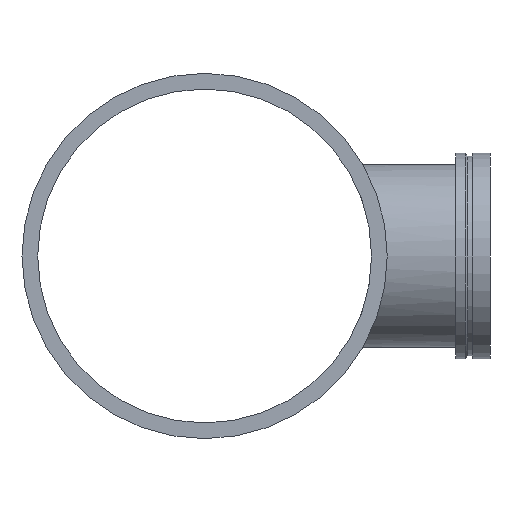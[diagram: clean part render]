
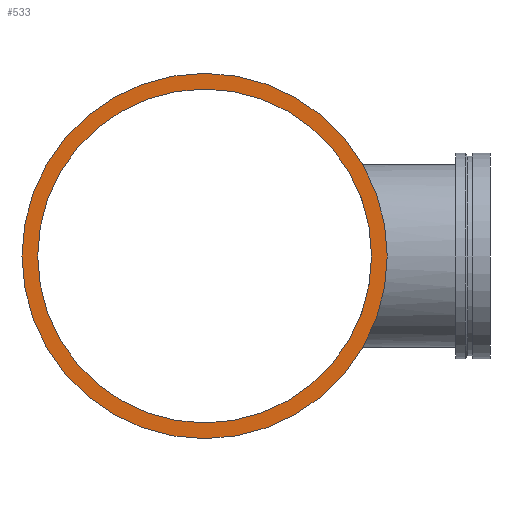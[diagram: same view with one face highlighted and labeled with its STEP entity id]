
A CAD part, left-side view. The second image highlights one B-rep face of the part: STEP entity #533.
In plain terms, the highlighted planar face has unit normal (-1, 0, 0).
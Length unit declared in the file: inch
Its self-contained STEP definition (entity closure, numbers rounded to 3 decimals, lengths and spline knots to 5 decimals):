
#58=FACE_BOUND('',#128,.T.);
#67=PLANE('',#626);
#92=FACE_OUTER_BOUND('',#127,.T.);
#127=EDGE_LOOP('',(#465,#466));
#128=EDGE_LOOP('',(#467,#468));
#151=CIRCLE('',#587,16.);
#152=CIRCLE('',#588,16.);
#175=CIRCLE('',#624,14.625);
#176=CIRCLE('',#625,14.625);
#239=VERTEX_POINT('',#1097);
#240=VERTEX_POINT('',#1099);
#263=VERTEX_POINT('',#1166);
#264=VERTEX_POINT('',#1168);
#299=EDGE_CURVE('',#239,#240,#151,.T.);
#300=EDGE_CURVE('',#240,#239,#152,.T.);
#331=EDGE_CURVE('',#264,#263,#175,.T.);
#332=EDGE_CURVE('',#263,#264,#176,.T.);
#465=ORIENTED_EDGE('',*,*,#300,.F.);
#466=ORIENTED_EDGE('',*,*,#299,.F.);
#467=ORIENTED_EDGE('',*,*,#331,.T.);
#468=ORIENTED_EDGE('',*,*,#332,.T.);
#533=ADVANCED_FACE('',(#92,#58),#67,.T.);
#587=AXIS2_PLACEMENT_3D('',#1100,#716,#717);
#588=AXIS2_PLACEMENT_3D('',#1101,#718,#719);
#624=AXIS2_PLACEMENT_3D('',#1169,#798,#799);
#625=AXIS2_PLACEMENT_3D('',#1170,#800,#801);
#626=AXIS2_PLACEMENT_3D('',#1171,#802,#803);
#716=DIRECTION('center_axis',(1.,0.,0.));
#717=DIRECTION('ref_axis',(0.,0.,1.));
#718=DIRECTION('center_axis',(1.,0.,0.));
#719=DIRECTION('ref_axis',(0.,0.,1.));
#798=DIRECTION('center_axis',(1.,0.,0.));
#799=DIRECTION('ref_axis',(0.,0.,1.));
#800=DIRECTION('center_axis',(1.,0.,0.));
#801=DIRECTION('ref_axis',(0.,0.,1.));
#802=DIRECTION('center_axis',(-1.,0.,0.));
#803=DIRECTION('ref_axis',(0.,0.,-1.));
#1097=CARTESIAN_POINT('',(-28.,16.,0.));
#1099=CARTESIAN_POINT('',(-28.,-16.,0.));
#1100=CARTESIAN_POINT('Origin',(-28.,0.,0.));
#1101=CARTESIAN_POINT('Origin',(-28.,0.,0.));
#1166=CARTESIAN_POINT('',(-28.,14.625,0.));
#1168=CARTESIAN_POINT('',(-28.,-14.625,0.));
#1169=CARTESIAN_POINT('Origin',(-28.,0.,0.));
#1170=CARTESIAN_POINT('Origin',(-28.,0.,0.));
#1171=CARTESIAN_POINT('Origin',(-28.,-16.,0.));
